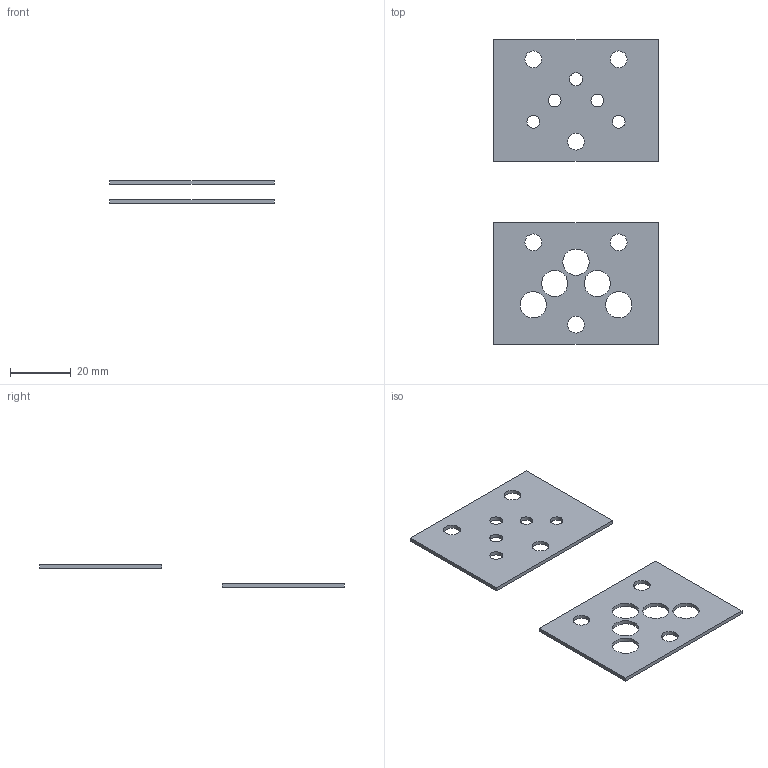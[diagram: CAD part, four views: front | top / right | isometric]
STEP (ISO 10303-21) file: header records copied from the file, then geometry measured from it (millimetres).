
FILE_DESCRIPTION(('Bauteilbeschreibung','HiCAD-Model','HiCAD-STEP-TRANSLATION','Bauteilbeschreibung'),'2;1');
FILE_NAME('C:/_EIGENE_DATEN/DXF_STEP/BDB4_BZB4_3508.STP','2008-08-25T12:57:30+00:00',('Konstrukteur'),('Konstrukteur Firma GmbH'),' HiCAD neXt 2007, Step 3.1.1212.3C ','HiCAD neXt 2007','confidential');
FILE_SCHEMA(('AUTOMOTIVE_DESIGN { 1 2 10303 214 0 1 1 1 }'));
Length unit declared in the file: millimetre
Products named in the file (5): BDB4_BZB4_3508; BDB4; ACEC7249; BZB4; F512CFEC
Assembly tree (4 placements, depth 3):
  BDB4_BZB4_3508
    BDB4
      ACEC7249
    BZB4
      F512CFEC
Bounding box: 54 x 100 x 7.5 mm (x, y, z)
Volume: 4772.2 mm3; surface area: 8486.4 mm2
Topology: 2 solids, 2 shells, 28 faces, 88 edges, 64 vertices
Faces by surface type: cylinder 16, plane 12
Full cylindrical faces by diameter (mm): 4.2 x5, 5.5 x6, 8.6 x5
Entity records: 957 total; most frequent: DIRECTION 160, CARTESIAN_POINT 140, ORIENTED_EDGE 112, EDGE_LOOP 76, AXIS2_PLACEMENT_3D 68, EDGE_CURVE 56, FACE_BOUND 48, VERTEX_POINT 48
